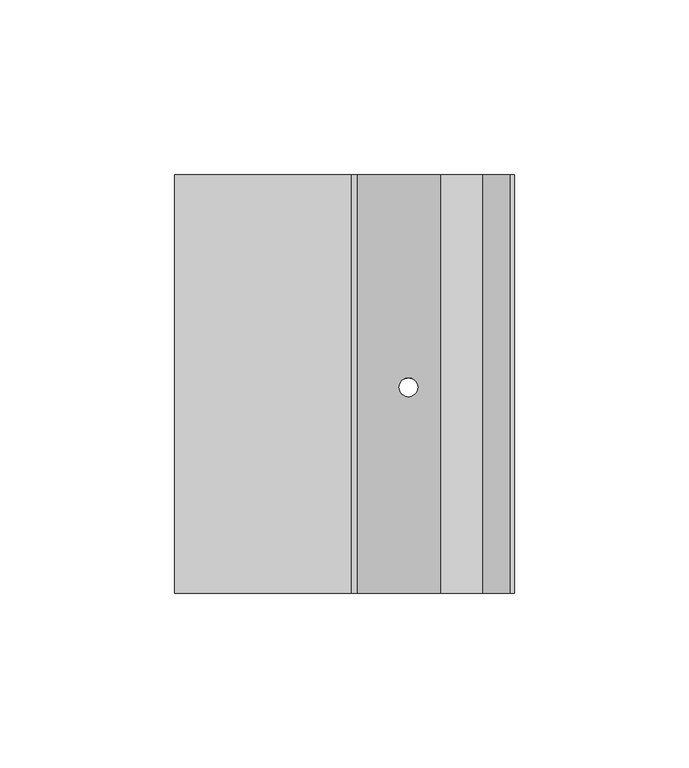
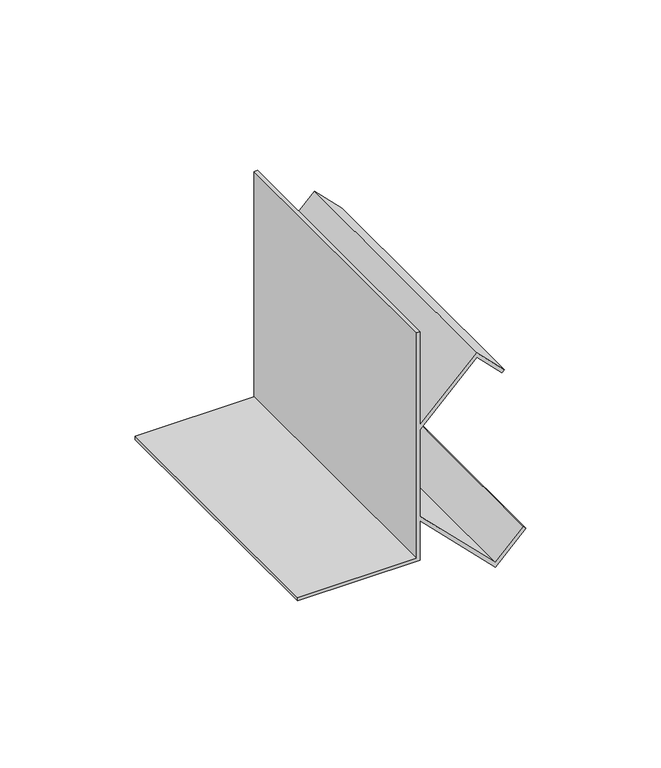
"""IFC4 building model written with IfcOpenShell, lengths in millimetres: proxy geometry, Mechanical Fittings & Accessories28 : Mechanical Fittings & Accessories."""

from ifc_helpers import new_model, si_unit, frame, origin, place, context, project, spatial, polyline, ellipse_curve, source, transform, mapped, element, save
from ifc_brep_helpers import plane_surface, revolved_surface, advanced_brep


def generic_models_a9732f75(model_context):
    return source(origin(), model_context, "Body", "AdvancedBrep", [
        advanced_brep(
        [(-13439.8639562, 9537.4963986, 4114.8), (-13490.6639562, 9537.4963986, 4114.8), (-13490.6639562, 9537.4963986, 4113.3117188), (-13438.375675, 9537.4963986, 4113.3117188), (-13438.375675, 9537.4963986, 4131.1383509), (-13406.265914, 9537.4963986, 4099.0285899), (-13393.2869427, 9537.4963986, 4112.0075612), (-13394.3393164, 9537.4963986, 4113.059935), (-13406.265914, 9537.4963986, 4101.1333374), (-13438.375675, 9537.4963986, 4133.2430984), (-13438.375675, 9537.4963986, 4172.2761118), (-13414.203414, 9537.4963986, 4196.4483729), (-13403.4674414, 9537.4963986, 4185.7124003), (-13402.4150677, 9537.4963986, 4186.7647741), (-13414.203414, 9537.4963986, 4198.5531204), (-13438.375675, 9537.4963986, 4174.3808594), (-13438.375675, 9537.4963986, 4216.4), (-13439.8639562, 9537.4963986, 4216.4), (-13439.8639562, 9657.4645457, 4114.8), (-13439.8639562, 9657.4645457, 4216.4), (-13438.375675, 9657.4645457, 4216.4), (-13438.375675, 9657.4645457, 4174.3808594), (-13414.203414, 9657.4645457, 4198.5531204), (-13402.4150677, 9657.4645457, 4186.7647741), (-13403.4674414, 9657.4645457, 4185.7124003), (-13414.203414, 9657.4645457, 4196.4483729), (-13438.375675, 9657.4645457, 4172.2761118), (-13438.375675, 9657.4645457, 4133.2430984), (-13406.265914, 9657.4645457, 4101.1333374), (-13394.3393164, 9657.4645457, 4113.059935), (-13393.2869427, 9657.4645457, 4112.0075612), (-13406.265914, 9657.4645457, 4099.0285899), (-13438.375675, 9657.4645457, 4131.1383509), (-13438.375675, 9657.4645457, 4113.3117188), (-13490.6639562, 9657.4645457, 4113.3117188), (-13490.6639562, 9657.4645457, 4114.8), (-13426.2617646, 9596.5191481, 4119.0244406), (-13420.9223978, 9596.5191481, 4113.6850737), (-13420.9223978, 9596.5191481, 4115.7898213), (-13426.2617646, 9596.5191481, 4121.1291881), (-13426.2617646, 9596.5191481, 4184.3900222), (-13420.9223978, 9596.5191481, 4189.729389), (-13420.9223978, 9596.5191481, 4191.8341365), (-13426.2617646, 9596.5191481, 4186.4947697)],
        [
            (0, 1),
            (1, 2),
            (2, 3),
            (3, 4),
            (4, 5),
            (5, 6),
            (6, 7),
            (7, 8),
            (8, 9),
            (9, 10),
            (10, 11),
            (11, 12),
            (12, 13),
            (13, 14),
            (14, 15),
            (15, 16),
            (16, 17),
            (17, 0),
            (18, 19),
            (19, 20),
            (20, 21),
            (21, 22),
            (22, 23),
            (23, 24),
            (24, 25),
            (25, 26),
            (26, 27),
            (27, 28),
            (28, 29),
            (29, 30),
            (30, 31),
            (31, 32),
            (32, 33),
            (33, 34),
            (34, 35),
            (35, 18),
            (0, 18),
            (35, 1),
            (34, 2),
            (33, 3),
            (32, 4),
            (31, 5),
            (36, 37, ellipse_curve(frame((-13423.5920812, 9596.5191481, 4116.3547571), z_axis=(0.7071067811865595, 0.0, 0.7071067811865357), x_axis=(-0.7071067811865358, 0.0, 0.7071067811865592)), 3.7755025, 2.6696834)),
            (37, 36, ellipse_curve(frame((-13423.5920812, 9596.5191481, 4116.3547571), z_axis=(0.7071067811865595, 0.0, 0.7071067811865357), x_axis=(-0.7071067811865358, 0.0, 0.7071067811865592)), 3.7755025, 2.6696834)),
            (30, 6),
            (29, 7),
            (28, 8),
            (27, 9),
            (38, 39, ellipse_curve(frame((-13423.5920812, 9596.5191481, 4118.4595047), z_axis=(-0.7071067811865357, 0.0, -0.7071067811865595), x_axis=(-0.7071067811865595, 0.0, 0.7071067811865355)), 3.7755025, 2.6696834)),
            (39, 38, ellipse_curve(frame((-13423.5920812, 9596.5191481, 4118.4595047), z_axis=(-0.7071067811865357, 0.0, -0.7071067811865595), x_axis=(-0.7071067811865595, 0.0, 0.7071067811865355)), 3.7755025, 2.6696834)),
            (26, 10),
            (25, 11),
            (40, 41, ellipse_curve(frame((-13423.5920812, 9596.5191481, 4187.0597056), z_axis=(-0.7071067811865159, 0.0, 0.7071067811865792), x_axis=(0.7071067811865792, 0.0, 0.7071067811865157)), 3.7755025, 2.6696834)),
            (41, 40, ellipse_curve(frame((-13423.5920812, 9596.5191481, 4187.0597056), z_axis=(-0.7071067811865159, 0.0, 0.7071067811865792), x_axis=(0.7071067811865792, 0.0, 0.7071067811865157)), 3.7755025, 2.6696834)),
            (24, 12),
            (23, 13),
            (22, 14),
            (21, 15),
            (42, 43, ellipse_curve(frame((-13423.5920812, 9596.5191481, 4189.1644531), z_axis=(0.7071067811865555, 0.0, -0.7071067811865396), x_axis=(0.7071067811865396, 0.0, 0.7071067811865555)), 3.7755025, 2.6696834)),
            (43, 42, ellipse_curve(frame((-13423.5920812, 9596.5191481, 4189.1644531), z_axis=(0.7071067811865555, 0.0, -0.7071067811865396), x_axis=(0.7071067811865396, 0.0, 0.7071067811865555)), 3.7755025, 2.6696834)),
            (20, 16),
            (19, 17),
            (36, 39),
            (38, 37),
            (40, 43),
            (42, 41),
        ],
        [
            plane_surface(frame((-13490.6639562, 9537.4963986, 4114.8), z_axis=(0.0, -1.0, 0.0), x_axis=(-1.0, 0.0, 0.0))),
            plane_surface(frame((-13490.6639562, 9657.4645457, 4114.8), z_axis=(0.0, 1.0, 0.0), x_axis=(1.0, 0.0, 0.0))),
            plane_surface(frame((-13439.8639562, 9537.4963986, 4114.8), z_axis=(0.0, 0.0, 1.0), x_axis=(0.0, 1.0, 0.0))),
            plane_surface(frame((-13490.6639562, 9537.4963986, 4114.8), z_axis=(-1.0, 0.0, 0.0), x_axis=(0.0, 1.0, 0.0))),
            plane_surface(frame((-13490.6639562, 9537.4963986, 4113.3117188), z_axis=(0.0, 0.0, -1.0), x_axis=(0.0, 1.0, 0.0))),
            plane_surface(frame((-13438.375675, 9537.4963986, 4113.3117188), z_axis=(1.0, 0.0, 0.0), x_axis=(0.0, 1.0, 0.0))),
            plane_surface(frame((-13438.375675, 9537.4963986, 4131.1383509), z_axis=(-0.7071067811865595, 0.0, -0.7071067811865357), x_axis=(0.0, 1.0, 0.0))),
            plane_surface(frame((-13406.265914, 9537.4963986, 4099.0285899), z_axis=(0.7071067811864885, 0.0, -0.7071067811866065), x_axis=(0.0, 1.0, 0.0))),
            plane_surface(frame((-13393.2869427, 9537.4963986, 4112.0075612), z_axis=(0.7071067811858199, 0.0, 0.7071067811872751), x_axis=(0.0, 1.0, 0.0))),
            plane_surface(frame((-13394.3393164, 9537.4963986, 4113.059935), z_axis=(-0.7071067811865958, 0.0, 0.7071067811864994), x_axis=(0.0, 1.0, 0.0))),
            plane_surface(frame((-13406.265914, 9537.4963986, 4101.1333374), z_axis=(0.7071067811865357, 0.0, 0.7071067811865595), x_axis=(0.0, 1.0, 0.0))),
            plane_surface(frame((-13438.375675, 9537.4963986, 4133.2430984), z_axis=(1.0, 0.0, 0.0), x_axis=(0.0, 1.0, 0.0))),
            plane_surface(frame((-13438.375675, 9537.4963986, 4172.2761118), z_axis=(0.7071067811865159, 0.0, -0.7071067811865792), x_axis=(0.0, 1.0, 0.0))),
            plane_surface(frame((-13414.203414, 9537.4963986, 4196.4483729), z_axis=(-0.7071067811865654, 0.0, -0.7071067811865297), x_axis=(0.0, 1.0, 0.0))),
            plane_surface(frame((-13403.4674414, 9537.4963986, 4185.7124003), z_axis=(0.7071067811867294, 0.0, -0.7071067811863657), x_axis=(0.0, 1.0, 0.0))),
            plane_surface(frame((-13402.4150677, 9537.4963986, 4186.7647741), z_axis=(0.707106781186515, 0.0, 0.70710678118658), x_axis=(0.0, 1.0, 0.0))),
            plane_surface(frame((-13414.203414, 9537.4963986, 4198.5531204), z_axis=(-0.7071067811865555, 0.0, 0.7071067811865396), x_axis=(0.0, 1.0, 0.0))),
            plane_surface(frame((-13438.375675, 9537.4963986, 4174.3808594), z_axis=(1.0, 0.0, 0.0), x_axis=(0.0, 1.0, 0.0))),
            plane_surface(frame((-13438.375675, 9537.4963986, 4216.4), z_axis=(0.0, 0.0, 1.0), x_axis=(0.0, 1.0, 0.0))),
            plane_surface(frame((-13439.8639562, 9537.4963986, 4216.4), z_axis=(-1.0, 0.0, 0.0), x_axis=(0.0, 1.0, 0.0))),
            revolved_surface(polyline([(-13420.9223978, 9596.5191481, 4121.129188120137), (-13420.9223978, 9596.5191481, 4113.685073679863)]), (-13423.5920812, 9596.5191481, 4097.2034211), (0.0, 0.0, 1.0)),
            revolved_surface(polyline([(-13420.9223978, 9596.5191481, 4191.834136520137), (-13420.9223978, 9596.5191481, 4184.390022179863)]), (-13423.5920812, 9596.5191481, 4097.2034211), (0.0, 0.0, 1.0)),
        ],
        [
            (0, [[1, 2, 3, 4, 5, 6, 7, 8, 9, 10, 11, 12, 13, 14, 15, 16, 17, 18]]),
            (1, [[19, 20, 21, 22, 23, 24, 25, 26, 27, 28, 29, 30, 31, 32, 33, 34, 35, 36]]),
            (2, [[-1, 37, -36, 38]]),
            (3, [[-2, -38, -35, 39]]),
            (4, [[-3, -39, -34, 40]]),
            (5, [[-4, -40, -33, 41]]),
            (6, [[-5, -41, -32, 42], [43, 44]]),
            (7, [[-6, -42, -31, 45]]),
            (8, [[-7, -45, -30, 46]]),
            (9, [[-8, -46, -29, 47]]),
            (10, [[-9, -47, -28, 48], [49, 50]]),
            (11, [[-10, -48, -27, 51]]),
            (12, [[-11, -51, -26, 52], [53, 54]]),
            (13, [[-12, -52, -25, 55]]),
            (14, [[-13, -55, -24, 56]]),
            (15, [[-14, -56, -23, 57]]),
            (16, [[-15, -57, -22, 58], [59, 60]]),
            (17, [[-16, -58, -21, 61]]),
            (18, [[-17, -61, -20, 62]]),
            (19, [[-18, -62, -19, -37]]),
            (20, [[63, -49, 64, -43]]),
            (21, [[65, -59, 66, -53]]),
            (20, [[-63, -44, -64, -50]]),
            (21, [[-65, -54, -66, -60]]),
        ],
    ),
    ])


if __name__ == "__main__":
    model = new_model("IFC4")
    model_context = context("Model", 3, world=origin())
    ifc_project = project(units=[si_unit("LENGTHUNIT", "METRE", prefix="MILLI")], contexts=[model_context])
    site = spatial("IfcSite", under=ifc_project)
    building = spatial("IfcBuilding", under=site)
    placement = place(None, origin())
    generic_models_shape = generic_models_a9732f75(model_context)
    element("IfcBuildingElementProxy", 1, Name="Mechanical Fittings & Accessories28 : Mechanical Fittings & Accessories", ObjectType="Mechanical Fittings & Accessories28 : Mechanical Fittings & Accessories", at=placement, inside=building, context=model_context, shape_type="MappedRepresentation", body=[
        mapped(generic_models_shape, transform((0.0, 0.0, 0.0), x_axis=(1.0, 0.0, 0.0), y_axis=(0.0, 1.0, 0.0), z_axis=(0.0, 0.0, 1.0))),
    ])
    save(model, "model.ifc")
